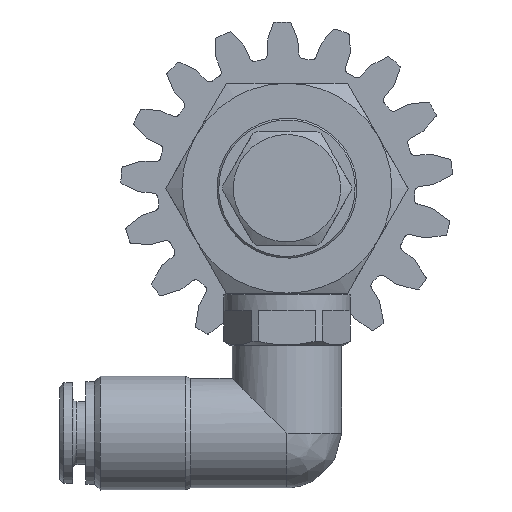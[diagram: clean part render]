
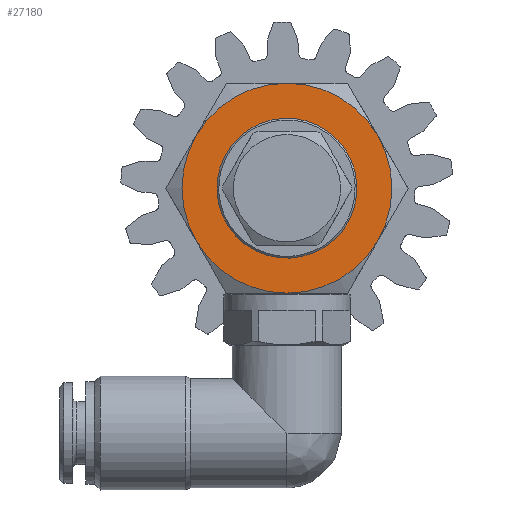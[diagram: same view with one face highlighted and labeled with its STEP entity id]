
A CAD part, front view. The second image highlights one B-rep face of the part: STEP entity #27180.
In plain terms, the highlighted planar face has unit normal (0, -1, 0).
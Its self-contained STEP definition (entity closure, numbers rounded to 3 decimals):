
#153 = DIRECTION ( 'NONE',  ( 0., 0., 1. ) ) ;
#507 = AXIS2_PLACEMENT_3D ( 'NONE', #19812, #44282, #12393 ) ;
#748 = AXIS2_PLACEMENT_3D ( 'NONE', #4965, #42812, #15366 ) ;
#946 = VERTEX_POINT ( 'NONE', #36573 ) ;
#1889 = DIRECTION ( 'NONE',  ( 0., 0., 1. ) ) ;
#3602 = DIRECTION ( 'NONE',  ( 0., 1., 0. ) ) ;
#4228 = EDGE_LOOP ( 'NONE', ( #12201 ) ) ;
#4965 = CARTESIAN_POINT ( 'NONE',  ( 0., 0., 0. ) ) ;
#5738 = PLANE ( 'NONE',  #32734 ) ;
#5816 = CIRCLE ( 'NONE', #37511, 12. ) ;
#6658 = CIRCLE ( 'NONE', #748, 12. ) ;
#7199 = CIRCLE ( 'NONE', #44070, 3.75 ) ;
#7219 = EDGE_CURVE ( 'NONE', #26773, #27091, #5816, .T. ) ;
#8056 = EDGE_CURVE ( 'NONE', #20183, #36503, #40333, .T. ) ;
#9002 = CARTESIAN_POINT ( 'NONE',  ( 0., 0., 12. ) ) ;
#12201 = ORIENTED_EDGE ( 'NONE', *, *, #15703, .T. ) ;
#12355 = EDGE_CURVE ( 'NONE', #36503, #35614, #6658, .T. ) ;
#12393 = DIRECTION ( 'NONE',  ( 0., 0., 1. ) ) ;
#12818 = ORIENTED_EDGE ( 'NONE', *, *, #25970, .F. ) ;
#12880 = DIRECTION ( 'NONE',  ( 0., 1., 0. ) ) ;
#13694 = ORIENTED_EDGE ( 'NONE', *, *, #7219, .F. ) ;
#15209 = DIRECTION ( 'NONE',  ( 0., 1., 0. ) ) ;
#15366 = DIRECTION ( 'NONE',  ( 0., 0., 1. ) ) ;
#15703 = EDGE_CURVE ( 'NONE', #24179, #24179, #7199, .T. ) ;
#16364 = CARTESIAN_POINT ( 'NONE',  ( 12., 0., 0. ) ) ;
#16565 = CARTESIAN_POINT ( 'NONE',  ( 0., 0., 3.75 ) ) ;
#17698 = ORIENTED_EDGE ( 'NONE', *, *, #33559, .F. ) ;
#18233 = DIRECTION ( 'NONE',  ( 0., 0., 1. ) ) ;
#18858 = EDGE_LOOP ( 'NONE', ( #13694, #17698, #12818, #43422, #26822, #38802 ) ) ;
#19228 = CARTESIAN_POINT ( 'NONE',  ( 0., 0., 0. ) ) ;
#19305 = CARTESIAN_POINT ( 'NONE',  ( 0., 0., 0. ) ) ;
#19812 = CARTESIAN_POINT ( 'NONE',  ( 0., 0., 0. ) ) ;
#20183 = VERTEX_POINT ( 'NONE', #22207 ) ;
#21207 = DIRECTION ( 'NONE',  ( 0., 0., 1. ) ) ;
#21642 = AXIS2_PLACEMENT_3D ( 'NONE', #19305, #29694, #43766 ) ;
#21869 = CIRCLE ( 'NONE', #26304, 12. ) ;
#22207 = CARTESIAN_POINT ( 'NONE',  ( 10.392, 0., -6. ) ) ;
#23274 = FACE_BOUND ( 'NONE', #4228, .T. ) ;
#24179 = VERTEX_POINT ( 'NONE', #16565 ) ;
#24678 = CARTESIAN_POINT ( 'NONE',  ( 0., 0., 0. ) ) ;
#25970 = EDGE_CURVE ( 'NONE', #35614, #946, #21869, .T. ) ;
#26304 = AXIS2_PLACEMENT_3D ( 'NONE', #19228, #33339, #1889 ) ;
#26773 = VERTEX_POINT ( 'NONE', #9002 ) ;
#26822 = ORIENTED_EDGE ( 'NONE', *, *, #8056, .F. ) ;
#27091 = VERTEX_POINT ( 'NONE', #38285 ) ;
#27180 = ADVANCED_FACE ( 'NONE', ( #44766, #23274 ), #5738, .F. ) ;
#27238 = DIRECTION ( 'NONE',  ( 0., 0., 1. ) ) ;
#28523 = CIRCLE ( 'NONE', #40311, 12. ) ;
#29694 = DIRECTION ( 'NONE',  ( 0., 1., 0. ) ) ;
#32340 = CARTESIAN_POINT ( 'NONE',  ( -10.392, 0., -6. ) ) ;
#32734 = AXIS2_PLACEMENT_3D ( 'NONE', #16364, #12880, #27238 ) ;
#33245 = CARTESIAN_POINT ( 'NONE',  ( 0., 0., 0. ) ) ;
#33339 = DIRECTION ( 'NONE',  ( 0., 1., 0. ) ) ;
#33559 = EDGE_CURVE ( 'NONE', #946, #26773, #39319, .T. ) ;
#35277 = CARTESIAN_POINT ( 'NONE',  ( 0., 0., 0. ) ) ;
#35614 = VERTEX_POINT ( 'NONE', #32340 ) ;
#36503 = VERTEX_POINT ( 'NONE', #40802 ) ;
#36573 = CARTESIAN_POINT ( 'NONE',  ( -10.392, 0., 6. ) ) ;
#37511 = AXIS2_PLACEMENT_3D ( 'NONE', #35277, #3602, #153 ) ;
#38285 = CARTESIAN_POINT ( 'NONE',  ( 10.392, 0., 6. ) ) ;
#38743 = DIRECTION ( 'NONE',  ( 0., 1., 0. ) ) ;
#38802 = ORIENTED_EDGE ( 'NONE', *, *, #45644, .F. ) ;
#39319 = CIRCLE ( 'NONE', #21642, 12. ) ;
#40311 = AXIS2_PLACEMENT_3D ( 'NONE', #24678, #38743, #21207 ) ;
#40333 = CIRCLE ( 'NONE', #507, 12. ) ;
#40802 = CARTESIAN_POINT ( 'NONE',  ( 0., 0., -12. ) ) ;
#42812 = DIRECTION ( 'NONE',  ( 0., 1., 0. ) ) ;
#43422 = ORIENTED_EDGE ( 'NONE', *, *, #12355, .F. ) ;
#43766 = DIRECTION ( 'NONE',  ( 0., 0., 1. ) ) ;
#44070 = AXIS2_PLACEMENT_3D ( 'NONE', #33245, #15209, #18233 ) ;
#44282 = DIRECTION ( 'NONE',  ( 0., 1., 0. ) ) ;
#44766 = FACE_OUTER_BOUND ( 'NONE', #18858, .T. ) ;
#45644 = EDGE_CURVE ( 'NONE', #27091, #20183, #28523, .T. ) ;
